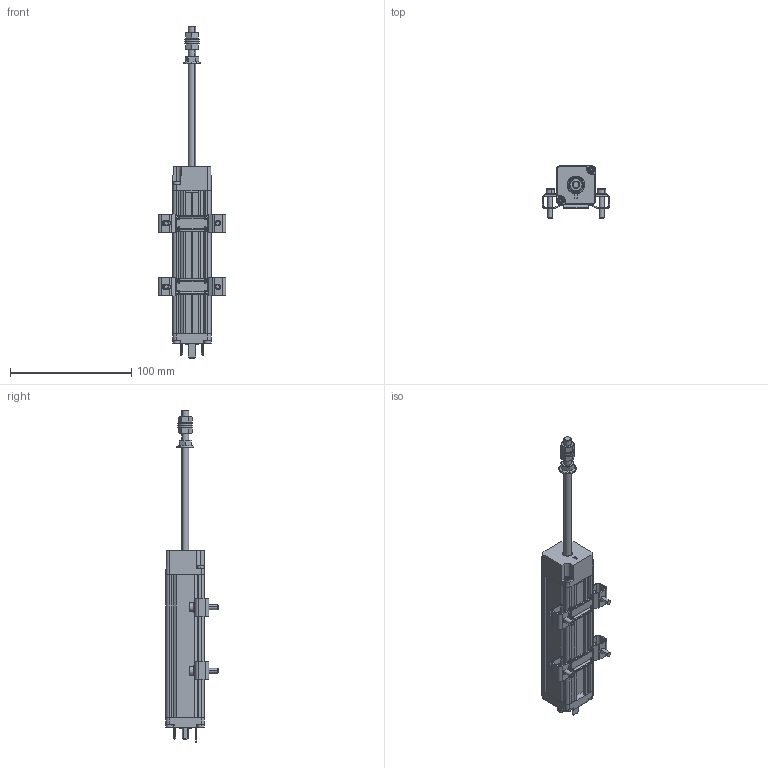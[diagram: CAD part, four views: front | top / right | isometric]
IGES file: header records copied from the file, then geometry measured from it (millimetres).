
Start section: SolidWorks IGES file using analytic representation for surfaces
Global section: file name: E:\Salzinger\I-net_3D\LWH_Essentials\LWH_prts\LWH_075.IGS; native system: SolidWorks 2008; preprocessor: SolidWorks 2008; author: salzinger; date: 081106.122845; units: millimetre
Bounding box: 56 x 43.08 x 274 mm (x, y, z)
Surface area: 47591.3 mm2 (no closed solid volume)
Topology: 0 solids, 0 shells, 1066 faces, 13290 edges, 13258 vertices
Faces by surface type: bspline 560, revolution 506
